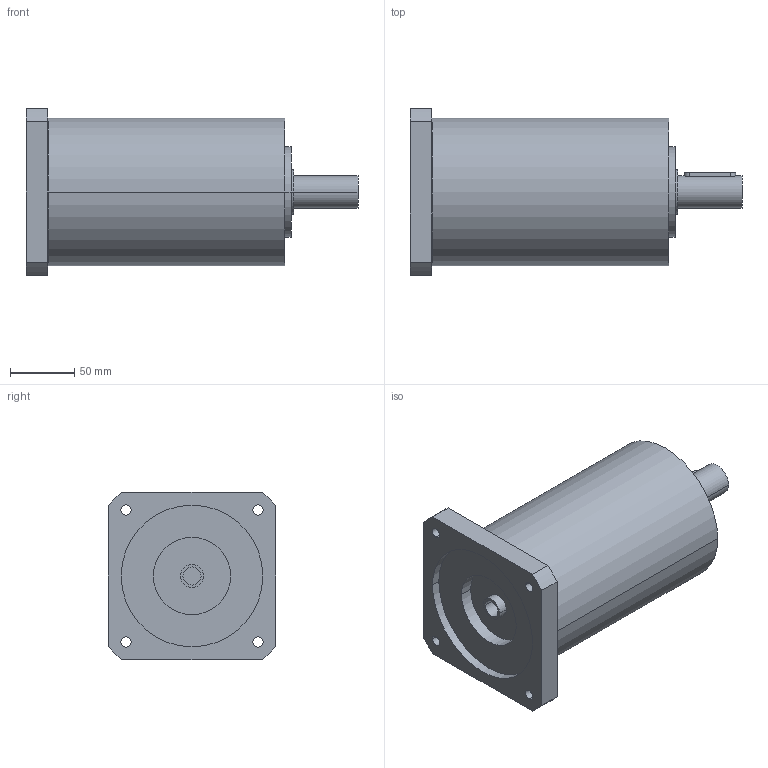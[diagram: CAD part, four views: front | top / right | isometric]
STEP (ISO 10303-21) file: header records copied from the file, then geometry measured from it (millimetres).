
FILE_DESCRIPTION(('CoCreate Modeling STEP Export'),'2;1');
FILE_NAME('GPR125_ig-48-64-80-100-140-196-245-343_25_B14_14_P12.stp','2014-08-26T14:20:49',(''),(''),'CoCreate Modeling STEP processor for AP214 (Solid Model)','CoCreate Modeling 16.00C 25-Feb-2009 (C) Parametric Technology GmbH','');
FILE_SCHEMA(('AUTOMOTIVE_DESIGN { 1 0 10303 214 1 1 1 1 }'));
Length unit declared in the file: millimetre
Products named in the file (2): GPR125_ig-48-64-80-100-140-196-245-343_25_B14_14_P12
Assembly tree (1 placements, depth 2):
  GPR125_ig-48-64-80-100-140-196-245-343_25_B14_14_P12
    GPR125_ig-48-64-80-100-140-196-245-343_25_B14_14_P12
Bounding box: 258 x 130 x 130 mm (x, y, z)
Volume: 2135736.9 mm3; surface area: 123953.9 mm2
Topology: 1 solids, 1 shells, 65 faces, 180 edges, 128 vertices
Faces by surface type: cylinder 40, plane 21, cone 4
Entity records: 1853 total; most frequent: ORIENTED_EDGE 356, CARTESIAN_POINT 351, DIRECTION 248, EDGE_CURVE 178, VERTEX_POINT 128, AXIS2_PLACEMENT_3D 93, EDGE_LOOP 86, FACE_OUTER_BOUND 65
